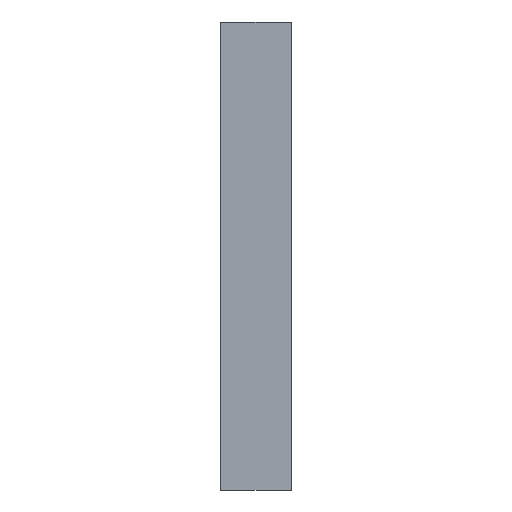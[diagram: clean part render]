
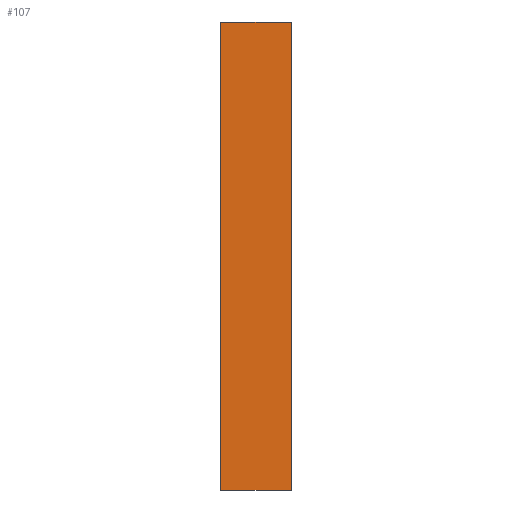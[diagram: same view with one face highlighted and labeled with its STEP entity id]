
A CAD part, left-side view. The second image highlights one B-rep face of the part: STEP entity #107.
In plain terms, the highlighted planar face has unit normal (-1, 0, 0).
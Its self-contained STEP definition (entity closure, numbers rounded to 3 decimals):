
#6 = VERTEX_POINT ( 'NONE', #381 ) ;
#7 = EDGE_CURVE ( 'NONE', #13, #6, #380, .T. ) ;
#8 = ORIENTED_EDGE ( 'NONE', *, *, #16, .F. ) ;
#11 = ORIENTED_EDGE ( 'NONE', *, *, #7, .T. ) ;
#13 = VERTEX_POINT ( 'NONE', #565 ) ;
#16 = EDGE_CURVE ( 'NONE', #13, #111, #627, .T. ) ;
#27 = EDGE_CURVE ( 'NONE', #6, #112, #547, .T. ) ;
#29 = ORIENTED_EDGE ( 'NONE', *, *, #27, .T. ) ;
#107 = ADVANCED_FACE ( 'NONE', ( #492 ), #491, .T. ) ;
#108 = EDGE_LOOP ( 'NONE', ( #109, #8, #11, #29 ) ) ;
#109 = ORIENTED_EDGE ( 'NONE', *, *, #110, .F. ) ;
#110 = EDGE_CURVE ( 'NONE', #111, #112, #486, .T. ) ;
#111 = VERTEX_POINT ( 'NONE', #482 ) ;
#112 = VERTEX_POINT ( 'NONE', #563 ) ;
#377 = DIRECTION ( 'NONE',  ( 0., 0., 1. ) ) ;
#378 = VECTOR ( 'NONE', #377, 1000. ) ;
#379 = CARTESIAN_POINT ( 'NONE',  ( -105., -20., -66. ) ) ;
#380 = LINE ( 'NONE', #379, #378 ) ;
#381 = CARTESIAN_POINT ( 'NONE',  ( -105., -20., 66. ) ) ;
#449 = DIRECTION ( 'NONE',  ( 0., 1., 0. ) ) ;
#450 = VECTOR ( 'NONE', #449, 1000. ) ;
#482 = CARTESIAN_POINT ( 'NONE',  ( -105., 0., -66. ) ) ;
#483 = DIRECTION ( 'NONE',  ( 0., 0., 1. ) ) ;
#484 = VECTOR ( 'NONE', #483, 1000. ) ;
#485 = CARTESIAN_POINT ( 'NONE',  ( -105., 0., -66. ) ) ;
#486 = LINE ( 'NONE', #485, #484 ) ;
#487 = DIRECTION ( 'NONE',  ( 0., 0., 1. ) ) ;
#488 = DIRECTION ( 'NONE',  ( -1., 0., 0. ) ) ;
#489 = CARTESIAN_POINT ( 'NONE',  ( -105., -20., -66. ) ) ;
#490 = AXIS2_PLACEMENT_3D ( 'NONE', #489, #488, #487 ) ;
#491 = PLANE ( 'NONE',  #490 ) ;
#492 = FACE_OUTER_BOUND ( 'NONE', #108, .T. ) ;
#544 = DIRECTION ( 'NONE',  ( 0., 1., 0. ) ) ;
#545 = VECTOR ( 'NONE', #544, 1000. ) ;
#546 = CARTESIAN_POINT ( 'NONE',  ( -105., -20., 66. ) ) ;
#547 = LINE ( 'NONE', #546, #545 ) ;
#563 = CARTESIAN_POINT ( 'NONE',  ( -105., 0., 66. ) ) ;
#565 = CARTESIAN_POINT ( 'NONE',  ( -105., -20., -66. ) ) ;
#626 = CARTESIAN_POINT ( 'NONE',  ( -105., -20., -66. ) ) ;
#627 = LINE ( 'NONE', #626, #450 ) ;
